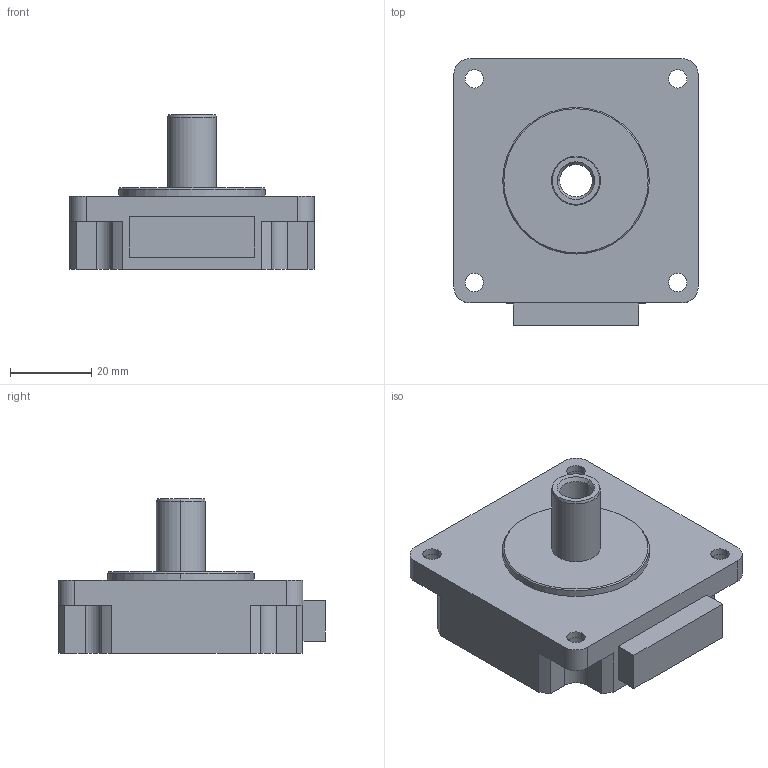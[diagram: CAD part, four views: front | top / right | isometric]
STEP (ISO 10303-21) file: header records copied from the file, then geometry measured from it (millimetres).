
FILE_DESCRIPTION (( 'STEP AP203' ), '1' );
FILE_NAME ('PMSB-B60D0HW.STEP', '2021-06-11T02:38:22', ( '' ), ( '' ), 'SwSTEP 2.0', 'SolidWorks 2018', '' );
FILE_SCHEMA (( 'CONFIG_CONTROL_DESIGN' ));
Length unit declared in the file: millimetre
Products named in the file (1): PMSB-B60D0HW
Bounding box: 60 x 65.5 x 38 mm (x, y, z)
Volume: 62277.6 mm3; surface area: 13902.5 mm2
Topology: 1 solids, 1 shells, 85 faces, 226 edges, 146 vertices
Faces by surface type: cylinder 46, plane 33, cone 6
Entity records: 2771 total; most frequent: DIRECTION 504, CARTESIAN_POINT 458, ORIENTED_EDGE 452, EDGE_CURVE 226, AXIS2_PLACEMENT_3D 192, VERTEX_POINT 146, LINE 120, VECTOR 120
